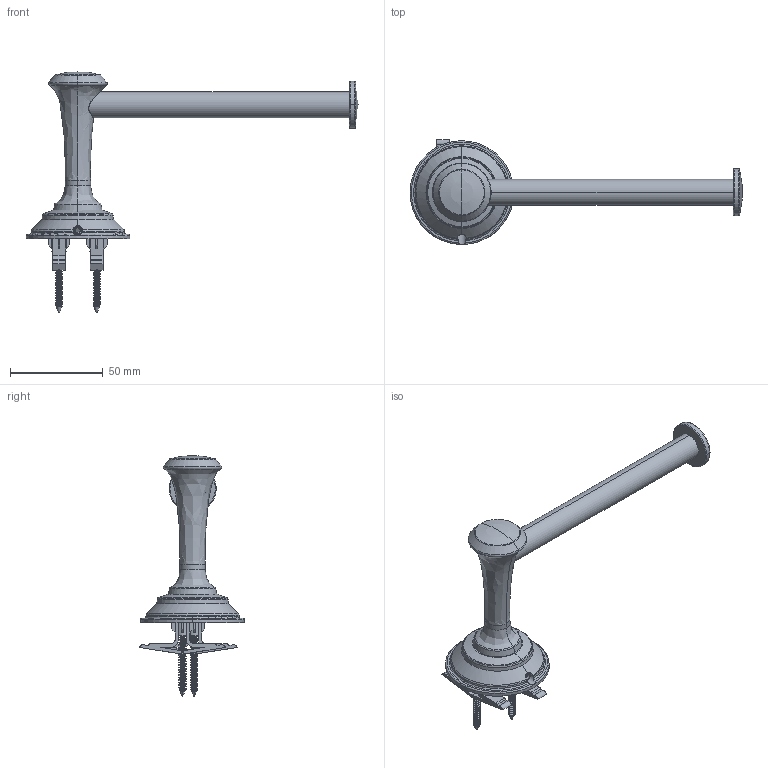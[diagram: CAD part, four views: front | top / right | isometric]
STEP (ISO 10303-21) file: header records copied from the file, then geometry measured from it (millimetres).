
FILE_DESCRIPTION (( 'STEP AP214' ), '1' );
FILE_NAME ('583TP.STEP', '2025-01-06T01:11:38', ( '' ), ( '' ), 'SwSTEP 2.0', 'SolidWorks 2023', '' );
FILE_SCHEMA (( 'AUTOMOTIVE_DESIGN' ));
Length unit declared in the file: inch
Products named in the file (1): 583TP
Bounding box: 178.87 x 56.54 x 129.62 mm (x, y, z)
Surface area: 26254.9 mm2 (no closed solid volume)
Topology: 0 solids, 13 shells, 369 faces, 1176 edges, 793 vertices
Faces by surface type: cylinder 132, plane 113, bspline 60, torus 31, cone 29, sphere 4
Entity records: 37097 total; most frequent: CARTESIAN_POINT 27825, ORIENTED_EDGE 2086, DIRECTION 1544, EDGE_CURVE 1171, VERTEX_POINT 792, AXIS2_PLACEMENT_3D 570, B_SPLINE_CURVE_WITH_KNOTS 504, VECTOR 404
